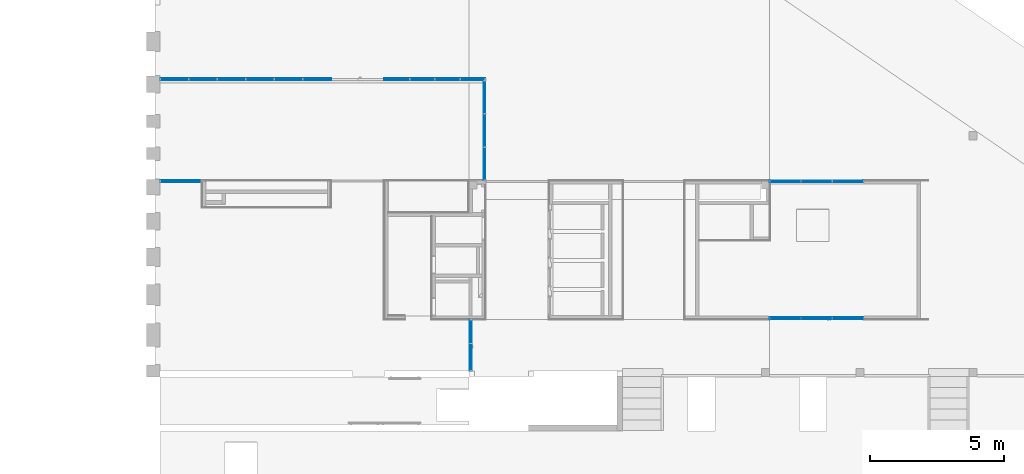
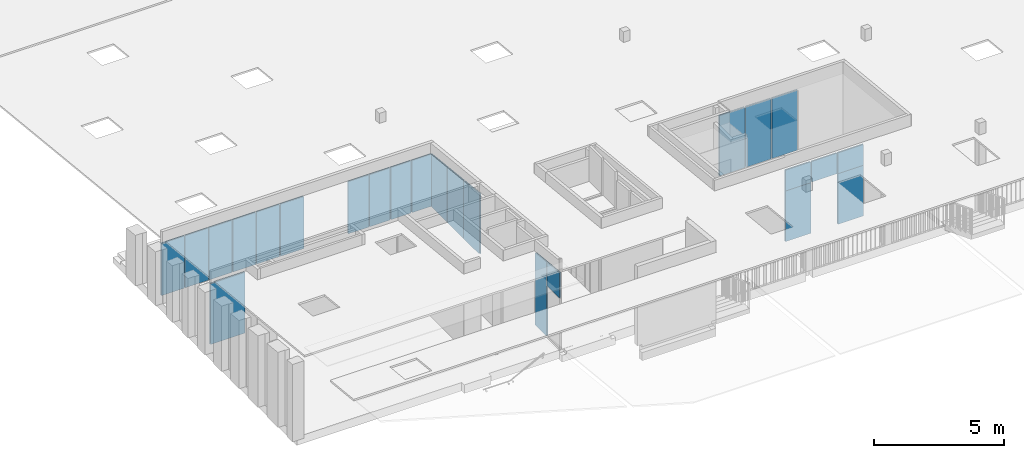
# One storey, part 9 of 43: 24 plates, 6 elements without a shape of their own.
"""IFC2X3 building model written with IfcOpenShell, lengths in millimetres."""

import ifcopenshell
import ifcopenshell.guid

model = None  # the IFC model being written
_history = None  # IfcOwnerHistory: only IFC2X3 demands one
_inside = {}  # id of a spatial element -> (the spatial element, [elements in it])
_under = {}  # id of a project, library or spatial element -> (it, [spatial elements below it])
_declared = {}  # id of a project -> (the project, [libraries it declares])
_typed = {}  # id of a type object -> (the type object, [elements of that type])
_made_of = {}  # id of a material, layer set ... -> (it, [elements and type objects made of it])


def new_model(schema):
    """Start an empty IFC model of exactly this schema.

    Asked for "IFC4X3", IfcOpenShell would pick the latest addendum, in which some entities
    have other attributes; the version numbers below select the first issue.
    IFC2X3 requires an IfcOwnerHistory on every rooted entity: one is made here for all.
    """
    global model, _history
    if schema == "IFC4X3":
        model = ifcopenshell.file(schema_version=(4, 3, 0, 0))
    else:
        model = ifcopenshell.file(schema=schema)
    _inside.clear()
    _under.clear()
    _declared.clear()
    _typed.clear()
    _made_of.clear()
    _history = None
    if model.schema == "IFC2X3":
        org = make("IfcOrganization", Name="unknown")
        user = make(
            "IfcPersonAndOrganization",
            ThePerson=make("IfcPerson", FamilyName="unknown"),
            TheOrganization=org,
        )
        app = make(
            "IfcApplication",
            ApplicationDeveloper=org,
            Version="unknown",
            ApplicationFullName="unknown",
            ApplicationIdentifier="unknown",
        )
        _history = make(
            "IfcOwnerHistory",
            OwningUser=user,
            OwningApplication=app,
            ChangeAction="ADDED",
            CreationDate=0,
        )
    return model


def make(cls, **values):
    """One entity of the class cls with the attributes given. An attribute that is None is left unset."""
    return model.create_entity(
        cls, **{name: value for name, value in values.items() if value is not None}
    )


def entity(cls, *values):
    """Any entity or typed value of the class cls, its attributes in the order of the schema. None: left unset."""
    e = model.create_entity(cls)
    for i, value in enumerate(values):
        if value is not None:
            e[i] = value
    return e


def rooted(cls, **values):
    """An entity with a GlobalId (a new one), such as an element, a storey or a relation."""
    return make(cls, GlobalId=ifcopenshell.guid.new(), OwnerHistory=_history, **values)


def si_unit(unit_type, name, prefix=None):
    """IfcSIUnit, for example si_unit("LENGTHUNIT", "METRE", prefix="MILLI")."""
    return make("IfcSIUnit", UnitType=unit_type, Prefix=prefix, Name=name)


def converted_unit(unit_type, name, factor, base, dimensions=None, offset=None):
    """IfcConversionBasedUnit, such as the inch: factor (a typed value) times the base unit."""
    return make(
        "IfcConversionBasedUnit"
        if offset is None
        else "IfcConversionBasedUnitWithOffset",
        ConversionOffset=offset,
        Dimensions=None
        if dimensions is None
        else entity("IfcDimensionalExponents", *dimensions),
        UnitType=unit_type,
        Name=name,
        ConversionFactor=make(
            "IfcMeasureWithUnit", ValueComponent=factor, UnitComponent=base
        ),
    )


def derived_unit(unit_type, elements):
    """IfcDerivedUnit: a product of units, each with its exponent."""
    return make(
        "IfcDerivedUnit",
        Elements=[
            make("IfcDerivedUnitElement", Unit=unit, Exponent=power)
            for unit, power in elements
        ],
        UnitType=unit_type,
    )


def money_unit(currency):
    """IfcMonetaryUnit."""
    return make("IfcMonetaryUnit", Currency=currency)


def assignment(units):
    """IfcUnitAssignment: the units of a project."""
    return None if units is None else make("IfcUnitAssignment", Units=units)


def point(xyz):
    """IfcCartesianPoint."""
    return None if xyz is None else make("IfcCartesianPoint", Coordinates=xyz)


def direction(xyz):
    """IfcDirection."""
    return None if xyz is None else make("IfcDirection", DirectionRatios=xyz)


def frame(location, z_axis=None, x_axis=None):
    """IfcAxis2Placement3D, a coordinate frame: its origin and axes. An axis left out is left unset."""
    return make(
        "IfcAxis2Placement3D",
        Location=point(location),
        Axis=direction(z_axis),
        RefDirection=direction(x_axis),
    )


def origin_with_axes():
    """The frame at (0, 0, 0) with the z axis (0, 0, 1) and the x axis (1, 0, 0) written out."""
    return frame((0.0, 0.0, 0.0), z_axis=(0.0, 0.0, 1.0), x_axis=(1.0, 0.0, 0.0))


def place(relative_to, where):
    """IfcLocalPlacement: puts the frame where relative to a parent placement (None: the world)."""
    return make(
        "IfcLocalPlacement", PlacementRelTo=relative_to, RelativePlacement=where
    )


def context(
    kind, dimensions, precision=None, world=None, true_north=None, identifier=None
):
    """IfcGeometricRepresentationContext, for example the 3D "Model" context."""
    return make(
        "IfcGeometricRepresentationContext",
        ContextIdentifier=identifier,
        ContextType=kind,
        CoordinateSpaceDimension=dimensions,
        Precision=precision,
        WorldCoordinateSystem=world,
        TrueNorth=true_north,
    )


def subcontext(parent, identifier, kind, view, scale=None):
    """IfcGeometricRepresentationSubContext, for example "Body" below "Model"."""
    return make(
        "IfcGeometricRepresentationSubContext",
        ContextIdentifier=identifier,
        ContextType=kind,
        ParentContext=parent,
        TargetScale=scale,
        TargetView=view,
    )


def project(units=None, contexts=None):
    """IfcProject with its units and contexts."""
    return rooted(
        "IfcProject",
        Name="project",
        RepresentationContexts=contexts,
        UnitsInContext=assignment(units),
    )


def spatial(cls, under=None, at=None, **own):
    """A site, building, storey or space (cls), placed at a placement, below another one or the project."""
    s = rooted(cls, ObjectPlacement=at, **own)
    if under is not None:
        _under.setdefault(under.id(), (under, []))[1].append(s)
    return s


def faces_of(points, faces, orient=None, outer=None):
    """IfcFace entities. A face is a list of loops; a loop is a list of indices into points, from 0.

    orient and outer hold one flag for each loop. By default every Orientation is true, the
    first loop of a face is its IfcFaceOuterBound and the others are IfcFaceBound.
    """
    made = []
    for i, loops in enumerate(faces):
        bounds = []
        for j, loop in enumerate(loops):
            is_outer = j == 0 if outer is None else outer[i][j]
            bounds.append(
                make(
                    "IfcFaceOuterBound" if is_outer else "IfcFaceBound",
                    Bound=make("IfcPolyLoop", Polygon=[points[k] for k in loop]),
                    Orientation=True if orient is None else orient[i][j],
                )
            )
        made.append(make("IfcFace", Bounds=bounds))
    return made


def faceted_brep(points, faces, orient=None, outer=None, voids=None):
    """IfcFacetedBrep: a solid bounded by flat faces; with voids (closed shells), ...WithVoids."""
    shared = [point(p) for p in points]
    hull = make("IfcClosedShell", CfsFaces=faces_of(shared, faces, orient, outer))
    if voids is None:
        return make("IfcFacetedBrep", Outer=hull)
    return make(
        "IfcFacetedBrepWithVoids",
        Outer=hull,
        Voids=[
            make(cls, CfsFaces=faces_of(shared, fs, o, b)) for cls, fs, o, b in voids
        ],
    )


def shape(context_of_items, identifier, shape_type, items):
    """IfcShapeRepresentation: the items that make up one representation, for example the "Body"."""
    return make(
        "IfcShapeRepresentation",
        ContextOfItems=context_of_items,
        RepresentationIdentifier=identifier,
        RepresentationType=shape_type,
        Items=items,
    )


def source(mapping_origin, context_of_items, identifier, shape_type, items):
    """IfcRepresentationMap: a shape defined once, which mapped items show again and again."""
    return make(
        "IfcRepresentationMap",
        MappingOrigin=mapping_origin,
        MappedRepresentation=shape(context_of_items, identifier, shape_type, items),
    )


def transform(
    local_origin,
    x_axis=None,
    y_axis=None,
    z_axis=None,
    scale=None,
    scale2=None,
    scale3=None,
    uniform=True,
):
    """IfcCartesianTransformationOperator3D, or its non-uniform kind. x_axis, y_axis, z_axis: its Axis1, 2, 3."""
    if uniform:
        return make(
            "IfcCartesianTransformationOperator3D",
            Axis1=direction(x_axis),
            Axis2=direction(y_axis),
            LocalOrigin=point(local_origin),
            Scale=scale,
            Axis3=direction(z_axis),
        )
    return make(
        "IfcCartesianTransformationOperator3DnonUniform",
        Axis1=direction(x_axis),
        Axis2=direction(y_axis),
        LocalOrigin=point(local_origin),
        Scale=scale,
        Axis3=direction(z_axis),
        Scale2=scale2,
        Scale3=scale3,
    )


def mapped(mapping_source, mapping_target):
    """IfcMappedItem: shows the shape of a source again, moved by a transform."""
    return make(
        "IfcMappedItem", MappingSource=mapping_source, MappingTarget=mapping_target
    )


def material(Name=None, Category=None):
    """IfcMaterial."""
    return make("IfcMaterial", Name=Name, Category=Category)


def made_of(thing, what):
    """Note that an element or type object is made of a material, layer set ...; save() writes the relation."""
    if what is not None:
        _made_of.setdefault(what.id(), (what, []))[1].append(thing)
    return thing


def type_object(cls, material=None, **own):
    """A type object (cls), such as IfcWallType, which elements share."""
    return made_of(rooted(cls, **own), material)


def element(
    cls,
    number,
    at=None,
    inside=None,
    cuts=None,
    type_object=None,
    material=None,
    context=None,
    identifier="Body",
    shape_type=None,
    held_by="IfcProductDefinitionShape",
    body=None,
    shapes=None,
    **own,
):
    """One element of the class cls, such as IfcWall. Its Tag is "e" and its number.

    at: its placement. inside: the storey or other place that contains it. cuts: it is an
    opening in that element (IfcRelVoidsElement). A single representation is given by context,
    identifier, shape_type and body (its items); several are given by shapes. held_by: the class
    of the entity that holds the representations. save() writes the other relations.
    """
    e = rooted(cls, Tag="e%d" % number, ObjectPlacement=at, **own)
    if body is not None:
        shapes = [shape(context, identifier, shape_type, body)]
    if shapes is not None:
        e.Representation = make(held_by, Representations=shapes)
    if inside is not None:
        _inside.setdefault(inside.id(), (inside, []))[1].append(e)
    if cuts is not None:
        rooted(
            "IfcRelVoidsElement", RelatingBuildingElement=cuts, RelatedOpeningElement=e
        )
    if type_object is not None:
        _typed.setdefault(type_object.id(), (type_object, []))[1].append(e)
    return made_of(e, material)


def aggregate(whole, parts):
    """IfcRelAggregates: a whole, such as a stair, and the parts it consists of."""
    return rooted("IfcRelAggregates", RelatingObject=whole, RelatedObjects=parts)


def save(model, path):
    """Write the relations noted so far, then the file.

    IfcRelAggregates (storeys below a building ...), IfcRelContainedInSpatialStructure (elements
    in a storey), IfcRelDefinesByType, IfcRelAssociatesMaterial and IfcRelDeclares: one each for
    every whole, place, type object, material and project.
    """
    for whole, parts in _under.values():
        aggregate(whole, parts)
    for where, things in _inside.values():
        rooted(
            "IfcRelContainedInSpatialStructure",
            RelatedElements=things,
            RelatingStructure=where,
        )
    for kind, things in _typed.values():
        rooted("IfcRelDefinesByType", RelatedObjects=things, RelatingType=kind)
    for what, things in _made_of.values():
        rooted("IfcRelAssociatesMaterial", RelatedObjects=things, RelatingMaterial=what)
    for by, libraries in _declared.values():
        rooted("IfcRelDeclares", RelatingContext=by, RelatedDefinitions=libraries)
    model.write(path)


model = new_model("IFC2X3")

# Units and contexts
model_context = context("Model", 3, precision=0.01, world=origin_with_axes(), true_north=direction((0.0, 1.0)))
body_context = subcontext(model_context, "Body", "Model", "MODEL_VIEW")
ifc_project = project(units=[si_unit("LENGTHUNIT", "METRE", prefix="MILLI"), si_unit("AREAUNIT", "SQUARE_METRE"), si_unit("VOLUMEUNIT", "CUBIC_METRE"), converted_unit("PLANEANGLEUNIT", "DEGREE", entity("IfcPlaneAngleMeasure", 0.0174532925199), si_unit("PLANEANGLEUNIT", "RADIAN"), dimensions=[0, 0, 0, 0, 0, 0, 0]), si_unit("SOLIDANGLEUNIT", "STERADIAN"), money_unit("EUR"), converted_unit("TIMEUNIT", "Year", entity("IfcTimeMeasure", 31556926.0), si_unit("TIMEUNIT", "SECOND"), dimensions=[0, 0, 1, 0, 0, 0, 0]), si_unit("MASSUNIT", "GRAM", prefix="KILO"), si_unit("THERMODYNAMICTEMPERATUREUNIT", "DEGREE_CELSIUS"), si_unit("LUMINOUSINTENSITYUNIT", "LUMEN"), si_unit("ENERGYUNIT", "JOULE", prefix="MEGA"), derived_unit("THERMALCONDUCTANCEUNIT", [(si_unit("POWERUNIT", "WATT"), 1), (si_unit("LENGTHUNIT", "METRE"), -1), (si_unit("THERMODYNAMICTEMPERATUREUNIT", "KELVIN"), -1)]), derived_unit("SPECIFICHEATCAPACITYUNIT", [(si_unit("ENERGYUNIT", "JOULE"), 1), (si_unit("MASSUNIT", "GRAM", prefix="KILO"), -1), (si_unit("THERMODYNAMICTEMPERATUREUNIT", "KELVIN"), -1)]), derived_unit("MASSDENSITYUNIT", [(si_unit("MASSUNIT", "GRAM", prefix="KILO"), 1), (si_unit("VOLUMEUNIT", "CUBIC_METRE"), -1)])], contexts=[model_context])

# Site, building, storey
site_placement = place(None, origin_with_axes())
site = spatial("IfcSite", under=ifc_project, at=site_placement, Name="L.Koidula tn 11b", CompositionType="ELEMENT")
building_placement = place(site_placement, origin_with_axes())
building = spatial("IfcBuilding", under=site, at=building_placement, Name="Rakvere Riigigümnaasium", CompositionType="ELEMENT")
storey_placement = place(building_placement, frame((0.0, 0.0, 6665.0), z_axis=(0.0, 0.0, 1.0), x_axis=(1.0, 0.0, 0.0)))
storey = spatial("IfcBuildingStorey", under=building, at=storey_placement, Name="3.korrus +6,66", CompositionType="ELEMENT", Elevation=6665.0)

# Curtain wall, plates
curtain_wall_type = type_object("IfcCurtainWallType", Name="Curtain Wall Type", PredefinedType="NOTDEFINED")
curtain_wall_1_placement = place(storey_placement, frame((45254.9999955, 28178.4554945, 0.0), z_axis=(0.0, 0.0, 1.0), x_axis=(1.0, 0.0, 0.0)))
curtain_wall_1 = element("IfcCurtainWall", 1, at=curtain_wall_1_placement, inside=storey, type_object=curtain_wall_type, Name="SKLF-26")
ifc_material = material(Name="VKR-05_Klaas")
plate_type_1 = type_object("IfcPlateType", Name="Siseklaasfassaad - Klaas-Doubleline30 1027 x 2460 x 17", PredefinedType="CURTAIN_PANEL")
shared_shape_1 = source(origin_with_axes(), body_context, "Body", "Brep", [
    faceted_brep([(1043.99998523, 2474.99983865, -37.0), (17.0000163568, 2474.99983865, -37.0), (17.0000163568, 2474.99983865, -25.0), (1043.99998523, 2474.99983865, -25.0), (1043.99998523, 15.0000035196, -37.0), (17.0000163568, 15.0000035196, -37.0), (17.0000163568, 15.0000035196, -25.0), (1043.99998523, 15.0000035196, -25.0)], [[[0, 1, 2, 3]], [[0, 4, 5, 1]], [[1, 5, 6, 2]], [[3, 2, 6, 7]], [[4, 0, 3, 7]], [[5, 4, 7, 6]]]),
    faceted_brep([(1043.99998523, 2474.99983865, 15.0), (17.0000163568, 2474.99983865, 15.0), (17.0000163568, 2474.99983865, 27.0), (1043.99998523, 2474.99983865, 27.0), (1043.99998523, 15.0000035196, 15.0), (17.0000163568, 15.0000035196, 15.0), (17.0000163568, 15.0000035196, 27.0), (1043.99998523, 15.0000035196, 27.0)], [[[0, 1, 2, 3]], [[0, 4, 5, 1]], [[1, 5, 6, 2]], [[3, 2, 6, 7]], [[4, 0, 3, 7]], [[5, 4, 7, 6]]]),
])
plate_1_placement = place(curtain_wall_1_placement, frame((-4980.5, 0.0, 1244.99992109), z_axis=(0.0, 0.0, 1.0), x_axis=(1.0, 0.0, 0.0)))
plate_1 = element("IfcPlate", 2, at=plate_1_placement, type_object=plate_type_1, material=ifc_material, Name="Panel-Siseklaasf-022", ObjectType="CURTAIN_PANEL", context=body_context, shape_type="MappedRepresentation", body=[
    mapped(shared_shape_1, transform((530.5, 0.0, -1244.99992109), x_axis=(-1.0, 0.0, 0.0), y_axis=(0.0, 0.0, 1.0), z_axis=(0.0, 1.0, 0.0))),
])
plate_2_placement = place(curtain_wall_1_placement, frame((-8163.5, 0.0, 1244.99992109), z_axis=(0.0, 0.0, 1.0), x_axis=(1.0, 0.0, 0.0)))
plate_2 = element("IfcPlate", 3, at=plate_2_placement, type_object=plate_type_1, material=ifc_material, Name="Panel-Siseklaasf-023", ObjectType="CURTAIN_PANEL", context=body_context, shape_type="MappedRepresentation", body=[
    mapped(shared_shape_1, transform((530.5, 0.0, -1244.99992109), x_axis=(-1.0, 0.0, 0.0), y_axis=(0.0, 0.0, 1.0), z_axis=(0.0, 1.0, 0.0))),
])
plate_3_placement = place(curtain_wall_1_placement, frame((-6041.5, 0.0, 1244.99992109), z_axis=(0.0, 0.0, 1.0), x_axis=(1.0, 0.0, 0.0)))
plate_3 = element("IfcPlate", 4, at=plate_3_placement, type_object=plate_type_1, material=ifc_material, Name="Panel-Siseklaasf-040", ObjectType="CURTAIN_PANEL", context=body_context, shape_type="MappedRepresentation", body=[
    mapped(shared_shape_1, transform((530.5, 0.0, -1244.99992109), x_axis=(-1.0, 0.0, 0.0), y_axis=(0.0, 0.0, 1.0), z_axis=(0.0, 1.0, 0.0))),
])
plate_4_placement = place(curtain_wall_1_placement, frame((-7102.5, 0.0, 1244.99992109), z_axis=(0.0, 0.0, 1.0), x_axis=(1.0, 0.0, 0.0)))
plate_4 = element("IfcPlate", 5, at=plate_4_placement, type_object=plate_type_1, material=ifc_material, Name="Panel-Siseklaasf-038", ObjectType="CURTAIN_PANEL", context=body_context, shape_type="MappedRepresentation", body=[
    mapped(shared_shape_1, transform((530.5, 0.0, -1244.99992109), x_axis=(-1.0, 0.0, 0.0), y_axis=(0.0, 0.0, 1.0), z_axis=(0.0, 1.0, 0.0))),
])
plate_type_2 = type_object("IfcPlateType", Name="Siseklaasfassaad - Klaas-Doubleline30 908 x 2460 x 17", PredefinedType="CURTAIN_PANEL")
shared_shape_2 = source(origin_with_axes(), body_context, "Body", "Brep", [
    faceted_brep([(924.999982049, 2474.99983865, -37.0), (17.0000163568, 2474.99983865, -37.0), (17.0000163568, 2474.99983865, -25.0), (924.999982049, 2474.99983865, -25.0), (924.999982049, 15.0000035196, -37.0), (17.0000163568, 15.0000035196, -37.0), (17.0000163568, 15.0000035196, -25.0), (924.999982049, 15.0000035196, -25.0)], [[[0, 1, 2, 3]], [[0, 4, 5, 1]], [[1, 5, 6, 2]], [[3, 2, 6, 7]], [[4, 0, 3, 7]], [[5, 4, 7, 6]]]),
    faceted_brep([(924.999982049, 2474.99983865, 15.0), (17.0000163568, 2474.99983865, 15.0), (17.0000163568, 2474.99983865, 27.0), (924.999982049, 2474.99983865, 27.0), (924.999982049, 15.0000035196, 15.0), (17.0000163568, 15.0000035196, 15.0), (17.0000163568, 15.0000035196, 27.0), (924.999982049, 15.0000035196, 27.0)], [[[0, 1, 2, 3]], [[0, 4, 5, 1]], [[1, 5, 6, 2]], [[3, 2, 6, 7]], [[4, 0, 3, 7]], [[5, 4, 7, 6]]]),
])
plate_5_placement = place(curtain_wall_1_placement, frame((0.0, 0.0, 1244.99992109), z_axis=(0.0, 0.0, 1.0), x_axis=(1.0, 0.0, 0.0)))
plate_5 = element("IfcPlate", 6, at=plate_5_placement, type_object=plate_type_2, material=ifc_material, Name="Panel-Siseklaasf-019", ObjectType="CURTAIN_PANEL", context=body_context, shape_type="MappedRepresentation", body=[
    mapped(shared_shape_2, transform((471.0, 0.0, -1244.99992109), x_axis=(-1.0, 0.0, 0.0), y_axis=(0.0, 0.0, 1.0), z_axis=(0.0, 1.0, 0.0))),
])
plate_6_placement = place(curtain_wall_1_placement, frame((942.0, 0.0, 1244.99992109), z_axis=(0.0, 0.0, 1.0), x_axis=(1.0, 0.0, 0.0)))
plate_6 = element("IfcPlate", 7, at=plate_6_placement, type_object=plate_type_2, material=ifc_material, Name="Panel-Siseklaasf-042", ObjectType="CURTAIN_PANEL", context=body_context, shape_type="MappedRepresentation", body=[
    mapped(shared_shape_2, transform((471.0, 0.0, -1244.99992109), x_axis=(-1.0, 0.0, 0.0), y_axis=(0.0, 0.0, 1.0), z_axis=(0.0, 1.0, 0.0))),
])
plate_type_3 = type_object("IfcPlateType", Name="Siseklaasfassaad - Klaas-Doubleline30 925 x 2460 x 17", PredefinedType="CURTAIN_PANEL")
plate_7_placement = place(curtain_wall_1_placement, frame((-942.0, 0.0, 1244.99992109), z_axis=(0.0, 0.0, 1.0), x_axis=(1.0, 0.0, 0.0)))
plate_7 = element("IfcPlate", 8, at=plate_7_placement, type_object=plate_type_3, material=ifc_material, Name="Panel-Siseklaasf-020", ObjectType="CURTAIN_PANEL", context=body_context, shape_type="Brep", body=[
    faceted_brep([(-470.999998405, -37.0, 1229.99991757), (453.999983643, -37.0, 1229.99991757), (453.999983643, -25.0, 1229.99991757), (-470.999998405, -25.0, 1229.99991757), (-470.999998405, -37.0, -1229.99991757), (453.999983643, -37.0, -1229.99991757), (453.999983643, -25.0, -1229.99991757), (-470.999998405, -25.0, -1229.99991757)], [[[0, 1, 2, 3]], [[0, 4, 5, 1]], [[1, 5, 6, 2]], [[3, 2, 6, 7]], [[4, 0, 3, 7]], [[5, 4, 7, 6]]]),
    faceted_brep([(-470.999998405, 15.0, 1229.99991757), (453.999983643, 15.0, 1229.99991757), (453.999983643, 27.0, 1229.99991757), (-470.999998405, 27.0, 1229.99991757), (-470.999998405, 15.0, -1229.99991757), (453.999983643, 15.0, -1229.99991757), (453.999983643, 27.0, -1229.99991757), (-470.999998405, 27.0, -1229.99991757)], [[[0, 1, 2, 3]], [[0, 4, 5, 1]], [[1, 5, 6, 2]], [[3, 2, 6, 7]], [[4, 0, 3, 7]], [[5, 4, 7, 6]]]),
])
plate_type_4 = type_object("IfcPlateType", Name="Siseklaasfassaad - Klaas-Doubleline30 1044 x 2460 x 17", PredefinedType="CURTAIN_PANEL")
plate_8_placement = place(curtain_wall_1_placement, frame((-3919.5, 0.0, 1244.99992109), z_axis=(0.0, 0.0, 1.0), x_axis=(1.0, 0.0, 0.0)))
plate_8 = element("IfcPlate", 9, at=plate_8_placement, type_object=plate_type_4, material=ifc_material, Name="Panel-Siseklaasf-021", ObjectType="CURTAIN_PANEL", context=body_context, shape_type="Brep", body=[
    faceted_brep([(-513.499985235, -37.0, 1229.99991757), (530.5, -37.0, 1229.99991757), (530.5, -25.0, 1229.99991757), (-513.499985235, -25.0, 1229.99991757), (-513.499985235, -37.0, -1229.99991757), (530.5, -37.0, -1229.99991757), (530.5, -25.0, -1229.99991757), (-513.499985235, -25.0, -1229.99991757)], [[[0, 1, 2, 3]], [[0, 4, 5, 1]], [[1, 5, 6, 2]], [[3, 2, 6, 7]], [[4, 0, 3, 7]], [[5, 4, 7, 6]]]),
    faceted_brep([(-513.499985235, 15.0, 1229.99991757), (530.5, 15.0, 1229.99991757), (530.5, 27.0, 1229.99991757), (-513.499985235, 27.0, 1229.99991757), (-513.499985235, 15.0, -1229.99991757), (530.5, 15.0, -1229.99991757), (530.5, 27.0, -1229.99991757), (-513.499985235, 27.0, -1229.99991757)], [[[0, 1, 2, 3]], [[0, 4, 5, 1]], [[1, 5, 6, 2]], [[3, 2, 6, 7]], [[4, 0, 3, 7]], [[5, 4, 7, 6]]]),
])
plate_type_5 = type_object("IfcPlateType", Name="Siseklaasfassaad - Klaas-Doubleline30 1029 x 2460 x 17", PredefinedType="CURTAIN_PANEL")
plate_9_placement = place(curtain_wall_1_placement, frame((-9224.50011881, 0.0, 1244.99992109), z_axis=(0.0, 0.0, 1.0), x_axis=(1.0, 0.0, 0.0)))
plate_9 = element("IfcPlate", 10, at=plate_9_placement, type_object=plate_type_5, material=ifc_material, Name="Panel-Siseklaasf-024", ObjectType="CURTAIN_PANEL", context=body_context, shape_type="Brep", body=[
    faceted_brep([(-515.499879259, -37.0, 1229.99991757), (513.500102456, -37.0, 1229.99991757), (513.500102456, -25.0, 1229.99991757), (-515.499879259, -25.0, 1229.99991757), (-515.499879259, -37.0, -1229.99991757), (513.500102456, -37.0, -1229.99991757), (513.500102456, -25.0, -1229.99991757), (-515.499879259, -25.0, -1229.99991757)], [[[0, 1, 2, 3]], [[0, 4, 5, 1]], [[1, 5, 6, 2]], [[3, 2, 6, 7]], [[4, 0, 3, 7]], [[5, 4, 7, 6]]]),
    faceted_brep([(-515.499879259, 15.0, 1229.99991757), (513.500102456, 15.0, 1229.99991757), (513.500102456, 27.0, 1229.99991757), (-515.499879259, 27.0, 1229.99991757), (-515.499879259, 15.0, -1229.99991757), (513.500102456, 15.0, -1229.99991757), (513.500102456, 27.0, -1229.99991757), (-515.499879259, 27.0, -1229.99991757)], [[[0, 1, 2, 3]], [[0, 4, 5, 1]], [[1, 5, 6, 2]], [[3, 2, 6, 7]], [[4, 0, 3, 7]], [[5, 4, 7, 6]]]),
])
plate_type_6 = type_object("IfcPlateType", Name="Siseklaasfassaad - Klaas-Doubleline30 910 x 2460 x 17", PredefinedType="CURTAIN_PANEL")
plate_10_placement = place(curtain_wall_1_placement, frame((1884.0, 0.0, 1244.99992109), z_axis=(0.0, 0.0, 1.0), x_axis=(1.0, 0.0, 0.0)))
plate_10 = element("IfcPlate", 11, at=plate_10_placement, type_object=plate_type_6, material=ifc_material, Name="Panel-Siseklaasf-041", ObjectType="CURTAIN_PANEL", context=body_context, shape_type="Brep", body=[
    faceted_brep([(-453.999982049, -37.0, 1229.99991757), (455.99999648, -37.0, 1229.99991757), (455.99999648, -25.0, 1229.99991757), (-453.999982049, -25.0, 1229.99991757), (-453.999982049, -37.0, -1229.99991757), (455.99999648, -37.0, -1229.99991757), (455.99999648, -25.0, -1229.99991757), (-453.999982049, -25.0, -1229.99991757)], [[[0, 1, 2, 3]], [[0, 4, 5, 1]], [[1, 5, 6, 2]], [[3, 2, 6, 7]], [[4, 0, 3, 7]], [[5, 4, 7, 6]]]),
    faceted_brep([(-453.999982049, 15.0, 1229.99991757), (455.99999648, 15.0, 1229.99991757), (455.99999648, 27.0, 1229.99991757), (-453.999982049, 27.0, 1229.99991757), (-453.999982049, 15.0, -1229.99991757), (455.99999648, 15.0, -1229.99991757), (455.99999648, 27.0, -1229.99991757), (-453.999982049, 27.0, -1229.99991757)], [[[0, 1, 2, 3]], [[0, 4, 5, 1]], [[1, 5, 6, 2]], [[3, 2, 6, 7]], [[4, 0, 3, 7]], [[5, 4, 7, 6]]]),
])
aggregate(curtain_wall_1, [plate_5, plate_7, plate_8, plate_1, plate_2, plate_9, plate_10, plate_3, plate_6, plate_4])

curtain_wall_2_placement = place(storey_placement, frame((47567.9999955, 27513.9554945, 0.0), z_axis=(0.0, 0.0, 1.0), x_axis=(1.0, 0.0, 0.0)))
curtain_wall_2 = element("IfcCurtainWall", 12, at=curtain_wall_2_placement, inside=storey, type_object=curtain_wall_type, Name="SKLF-27")
plate_type_7 = type_object("IfcPlateType", Name="Siseklaasfassaad - Klaas-Doubleline30 1213 x 2460 x 17", PredefinedType="CURTAIN_PANEL")
plate_11_placement = place(curtain_wall_2_placement, frame((0.0, 0.0, 1278.15751386), z_axis=(0.0, 0.0, 1.0), x_axis=(0.0, 1.0, 0.0)))
plate_11 = element("IfcPlate", 13, at=plate_11_placement, type_object=plate_type_7, material=ifc_material, Name="Panel-Siseklaasf-045", ObjectType="CURTAIN_PANEL", context=body_context, shape_type="Brep", body=[
    faceted_brep([(-605.499977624, -37.0, 1329.51681949), (607.499996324, -37.0, 1196.39852846), (607.499996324, -25.0, 1196.39852846), (-605.499977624, -25.0, 1329.51681949), (-605.499977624, -37.0, -1263.15751018), (607.499996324, -37.0, -1263.15751018), (607.499996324, -25.0, -1263.15751018), (-605.499977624, -25.0, -1263.15751018)], [[[0, 1, 2, 3]], [[0, 4, 5, 1]], [[1, 5, 6, 2]], [[3, 2, 6, 7]], [[4, 0, 3, 7]], [[5, 4, 7, 6]]]),
    faceted_brep([(-605.499977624, 15.0, 1329.51681949), (607.499996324, 15.0, 1196.39852846), (607.499996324, 27.0, 1196.39852846), (-605.499977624, 27.0, 1329.51681949), (-605.499977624, 15.0, -1263.15751018), (607.499996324, 15.0, -1263.15751018), (607.499996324, 27.0, -1263.15751018), (-605.499977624, 27.0, -1263.15751018)], [[[0, 1, 2, 3]], [[0, 4, 5, 1]], [[1, 5, 6, 2]], [[3, 2, 6, 7]], [[4, 0, 3, 7]], [[5, 4, 7, 6]]]),
])
plate_type_8 = type_object("IfcPlateType", Name="Siseklaasfassaad - Klaas-Doubleline30 1212 x 2596 x 17", PredefinedType="CURTAIN_PANEL")
plate_12_placement = place(curtain_wall_2_placement, frame((0.0, -1245.5, 1346.49999326), z_axis=(0.0, 0.0, 1.0), x_axis=(0.0, 1.0, 0.0)))
plate_12 = element("IfcPlate", 14, at=plate_12_placement, type_object=plate_type_8, material=ifc_material, Name="Panel-Siseklaasf-046", ObjectType="CURTAIN_PANEL", context=body_context, shape_type="Brep", body=[
    faceted_brep([(-605.999991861, -37.0, 1397.91418677), (605.999981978, -37.0, 1264.90567668), (605.999981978, -25.0, 1264.90567668), (-605.999991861, -25.0, 1397.91418677), (-605.999991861, -37.0, -1331.50000397), (605.999981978, -37.0, -1331.50000397), (605.999981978, -25.0, -1331.50000397), (-605.999991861, -25.0, -1331.50000397)], [[[0, 1, 2, 3]], [[0, 4, 5, 1]], [[1, 5, 6, 2]], [[3, 2, 6, 7]], [[4, 0, 3, 7]], [[5, 4, 7, 6]]]),
    faceted_brep([(-605.999991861, 15.0, 1397.91418677), (605.999981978, 15.0, 1264.90567668), (605.999981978, 27.0, 1264.90567668), (-605.999991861, 27.0, 1397.91418677), (-605.999991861, 15.0, -1331.50000397), (605.999981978, 15.0, -1331.50000397), (605.999981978, 27.0, -1331.50000397), (-605.999991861, 27.0, -1331.50000397)], [[[0, 1, 2, 3]], [[0, 4, 5, 1]], [[1, 5, 6, 2]], [[3, 2, 6, 7]], [[4, 0, 3, 7]], [[5, 4, 7, 6]]]),
])
plate_type_9 = type_object("IfcPlateType", Name="Siseklaasfassaad - Klaas-Doubleline30 1213 x 2733 x 17", PredefinedType="CURTAIN_PANEL")
plate_13_placement = place(curtain_wall_2_placement, frame((0.0, -2491.0, 1414.84247267), z_axis=(0.0, 0.0, 1.0), x_axis=(0.0, 1.0, 0.0)))
plate_13 = element("IfcPlate", 15, at=plate_13_placement, type_object=plate_type_9, material=ifc_material, Name="Panel-Siseklaasf-044", ObjectType="CURTAIN_PANEL", context=body_context, shape_type="Brep", body=[
    faceted_brep([(-607.499994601, -37.0, 1466.42132505), (605.499996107, -37.0, 1333.30297914), (605.499996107, -25.0, 1333.30297914), (-607.499994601, -25.0, 1466.42132505), (-607.499994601, -37.0, -1399.84247432), (605.499996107, -37.0, -1399.84247432), (605.499996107, -25.0, -1399.84247432), (-607.499994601, -25.0, -1399.84247432)], [[[0, 1, 2, 3]], [[0, 4, 5, 1]], [[1, 5, 6, 2]], [[3, 2, 6, 7]], [[4, 0, 3, 7]], [[5, 4, 7, 6]]]),
    faceted_brep([(-607.499994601, 15.0, 1466.42132505), (605.499996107, 15.0, 1333.30297914), (605.499996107, 27.0, 1333.30297914), (-607.499994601, 27.0, 1466.42132505), (-607.499994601, 15.0, -1399.84247432), (605.499996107, 15.0, -1399.84247432), (605.499996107, 27.0, -1399.84247432), (-607.499994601, 27.0, -1399.84247432)], [[[0, 1, 2, 3]], [[0, 4, 5, 1]], [[1, 5, 6, 2]], [[3, 2, 6, 7]], [[4, 0, 3, 7]], [[5, 4, 7, 6]]]),
])
aggregate(curtain_wall_2, [plate_11, plate_12, plate_13])

# Curtain wall, plate
curtain_wall_3_placement = place(storey_placement, frame((36287.4860125, 24388.4555472, 0.0), z_axis=(0.0, 0.0, 1.0), x_axis=(1.0, 0.0, 0.0)))
curtain_wall_3 = element("IfcCurtainWall", 16, at=curtain_wall_3_placement, inside=storey, type_object=curtain_wall_type, Name="SKLF-25")
plate_type_10 = type_object("IfcPlateType", Name="Siseklaasfassaad - Klaas-Doubleline30 1545 x 2868 x 17", PredefinedType="CURTAIN_PANEL")
plate_14_placement = place(curtain_wall_3_placement, frame((0.0, 0.0, 1449.00000447), z_axis=(0.0, 0.0, 1.0), x_axis=(1.0, 0.0, 0.0)))
plate_14 = element("IfcPlate", 17, at=plate_14_placement, type_object=plate_type_10, material=ifc_material, Name="Panel-Siseklaasf-053", ObjectType="CURTAIN_PANEL", context=body_context, shape_type="Brep", body=[
    faceted_brep([(-772.500010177, -37.0, 1434.00000603), (772.500001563, -37.0, 1434.00000603), (772.500001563, -25.0, 1434.00000603), (-772.500010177, -25.0, 1434.00000603), (-772.500010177, -37.0, -1434.00000603), (772.500001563, -37.0, -1434.00000603), (772.500001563, -25.0, -1434.00000603), (-772.500010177, -25.0, -1434.00000603)], [[[0, 1, 2, 3]], [[0, 4, 5, 1]], [[1, 5, 6, 2]], [[3, 2, 6, 7]], [[4, 0, 3, 7]], [[5, 4, 7, 6]]]),
    faceted_brep([(-772.500010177, 15.0, 1434.00000603), (772.500001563, 15.0, 1434.00000603), (772.500001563, 27.0, 1434.00000603), (-772.500010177, 27.0, 1434.00000603), (-772.500010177, 15.0, -1434.00000603), (772.500001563, 15.0, -1434.00000603), (772.500001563, 27.0, -1434.00000603), (-772.500010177, 27.0, -1434.00000603)], [[[0, 1, 2, 3]], [[0, 4, 5, 1]], [[1, 5, 6, 2]], [[3, 2, 6, 7]], [[4, 0, 3, 7]], [[5, 4, 7, 6]]]),
])
aggregate(curtain_wall_3, [plate_14])

# Curtain wall, plates
curtain_wall_4_placement = place(storey_placement, frame((47063.0738161, 17825.4555095, 0.0), z_axis=(0.0, 0.0, 1.0), x_axis=(1.0, 0.0, 0.0)))
curtain_wall_4 = element("IfcCurtainWall", 18, at=curtain_wall_4_placement, inside=storey, type_object=curtain_wall_type, Name="SKLF-24")
plate_type_11 = type_object("IfcPlateType", Name="Siseklaasfassaad - Klaas-Doubleline30 998 x 1208 x 17", PredefinedType="CURTAIN_PANEL")
plate_15_placement = place(curtain_wall_4_placement, frame((0.0, 0.0, 2993.54992651), z_axis=(0.0, 0.0, 1.0), x_axis=(0.0, -1.0, 0.0)))
plate_15 = element("IfcPlate", 19, at=plate_15_placement, type_object=plate_type_11, material=ifc_material, Name="Panel-Siseklaasf-097", ObjectType="CURTAIN_PANEL", context=body_context, shape_type="Brep", body=[
    faceted_brep([(499.999998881, -37.0, 629.830388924), (499.999998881, -37.0, -578.549925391), (499.999998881, -25.0, -578.549925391), (499.999998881, -25.0, 629.830388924), (-497.999989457, -37.0, 527.317014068), (-497.999989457, -37.0, -578.549925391), (-497.999989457, -25.0, -578.549925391), (-497.999989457, -25.0, 527.317014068)], [[[0, 1, 2, 3]], [[0, 4, 5, 1]], [[1, 5, 6, 2]], [[3, 2, 6, 7]], [[4, 0, 3, 7]], [[5, 4, 7, 6]]]),
    faceted_brep([(499.999998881, 15.0, 629.830388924), (499.999998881, 15.0, -578.549925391), (499.999998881, 27.0, -578.549925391), (499.999998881, 27.0, 629.830388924), (-497.999989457, 15.0, 527.317014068), (-497.999989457, 15.0, -578.549925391), (-497.999989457, 27.0, -578.549925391), (-497.999989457, 27.0, 527.317014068)], [[[0, 1, 2, 3]], [[0, 4, 5, 1]], [[1, 5, 6, 2]], [[3, 2, 6, 7]], [[4, 0, 3, 7]], [[5, 4, 7, 6]]]),
])
plate_type_12 = type_object("IfcPlateType", Name="Siseklaasfassaad - Klaas-Doubleline30 868 x 2385 x 17", PredefinedType="CURTAIN_PANEL")
plate_16_placement = place(curtain_wall_4_placement, frame((0.0, 905.564663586, 2025.13628299), z_axis=(0.0, 0.0, 1.0), x_axis=(0.0, -1.0, 0.0)))
plate_16 = element("IfcPlate", 20, at=plate_16_placement, type_object=plate_type_12, material=ifc_material, Name="Panel-Siseklaasf-096", ObjectType="CURTAIN_PANEL", context=body_context, shape_type="Brep", body=[
    faceted_brep([(373.564631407, -37.0, 1492.23824068), (373.564631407, -37.0, -2010.13627317), (373.564631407, -25.0, -2010.13627317), (373.564631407, -25.0, 1492.23824068), (-494.419545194, -37.0, 1403.07991138), (-494.419492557, -37.0, -2010.13627317), (-494.419492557, -25.0, -2010.13627317), (-494.419545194, -25.0, 1403.07991138)], [[[0, 1, 2, 3]], [[0, 4, 5, 1]], [[1, 5, 6, 2]], [[3, 2, 6, 7]], [[4, 0, 3, 7]], [[5, 4, 7, 6]]]),
    faceted_brep([(373.564631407, 15.0, 1492.23824068), (373.564631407, 15.0, -2010.13627317), (373.564631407, 27.0, -2010.13627317), (373.564631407, 27.0, 1492.23824068), (-494.419545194, 15.0, 1403.07991138), (-494.419492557, 15.0, -2010.13627317), (-494.419492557, 27.0, -2010.13627317), (-494.419545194, 27.0, 1403.07991138)], [[[0, 1, 2, 3]], [[0, 4, 5, 1]], [[1, 5, 6, 2]], [[3, 2, 6, 7]], [[4, 0, 3, 7]], [[5, 4, 7, 6]]]),
])
aggregate(curtain_wall_4, [plate_15, plate_16])

curtain_wall_5_placement = place(storey_placement, frame((58878.6347232, 19272.4397072, 0.0), z_axis=(0.0, 0.0, 1.0), x_axis=(1.0, 0.0, 0.0)))
curtain_wall_5 = element("IfcCurtainWall", 21, at=curtain_wall_5_placement, inside=storey, type_object=curtain_wall_type, Name="SKLF-29")
plate_type_13 = type_object("IfcPlateType", Name="Siseklaasfassaad - Klaas-Doubleline30 1138 x 985 x 17", PredefinedType="CURTAIN_PANEL")
plate_17_placement = place(curtain_wall_5_placement, frame((0.0, 0.0, 2800.0), z_axis=(0.0, 0.0, 1.0), x_axis=(-1.0, 0.0, 0.0)))
plate_17 = element("IfcPlate", 22, at=plate_17_placement, type_object=plate_type_13, material=ifc_material, Name="Panel-Siseklaasf-007", ObjectType="CURTAIN_PANEL", context=body_context, shape_type="Brep", body=[
    faceted_brep([(-454.399986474, -37.0, 584.999991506), (683.599984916, -37.0, 584.999991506), (683.599984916, -25.0, 584.999991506), (-454.399986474, -25.0, 584.999991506), (-454.399986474, -37.0, -400.0), (683.599984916, -37.0, -400.0), (683.599984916, -25.0, -400.0), (-454.399986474, -25.0, -400.0)], [[[0, 1, 2, 3]], [[0, 4, 5, 1]], [[1, 5, 6, 2]], [[3, 2, 6, 7]], [[4, 0, 3, 7]], [[5, 4, 7, 6]]]),
    faceted_brep([(-454.399986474, 15.0, 584.999991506), (683.599984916, 15.0, 584.999991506), (683.599984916, 27.0, 584.999991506), (-454.399986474, 27.0, 584.999991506), (-454.399986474, 15.0, -400.0), (683.599984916, 15.0, -400.0), (683.599984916, 27.0, -400.0), (-454.399986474, 27.0, -400.0)], [[[0, 1, 2, 3]], [[0, 4, 5, 1]], [[1, 5, 6, 2]], [[3, 2, 6, 7]], [[4, 0, 3, 7]], [[5, 4, 7, 6]]]),
])
plate_type_14 = type_object("IfcPlateType", Name="Siseklaasfassaad - Klaas-Doubleline30 1136 x 970 x 17", PredefinedType="CURTAIN_PANEL")
plate_18_placement = place(curtain_wall_5_placement, frame((1056.40000167, 0.0, 2900.0), z_axis=(0.0, 0.0, 1.0), x_axis=(-1.0, 0.0, 0.0)))
plate_18 = element("IfcPlate", 23, at=plate_18_placement, type_object=plate_type_14, material=ifc_material, Name="Panel-Siseklaasf-102", ObjectType="CURTAIN_PANEL", context=body_context, shape_type="Brep", body=[
    faceted_brep([(-567.999984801, -37.0, 484.999991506), (567.999984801, -37.0, 484.999991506), (567.999984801, -25.0, 484.999991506), (-567.999984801, -25.0, 484.999991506), (-567.999984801, -37.0, -484.999986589), (567.999984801, -37.0, -484.999986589), (567.999984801, -25.0, -484.999986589), (-567.999984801, -25.0, -484.999986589)], [[[0, 1, 2, 3]], [[0, 4, 5, 1]], [[1, 5, 6, 2]], [[3, 2, 6, 7]], [[4, 0, 3, 7]], [[5, 4, 7, 6]]]),
    faceted_brep([(-567.999984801, 15.0, 484.999991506), (567.999984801, 15.0, 484.999991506), (567.999984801, 27.0, 484.999991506), (-567.999984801, 27.0, 484.999991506), (-567.999984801, 15.0, -484.999986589), (567.999984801, 15.0, -484.999986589), (567.999984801, 27.0, -484.999986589), (-567.999984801, 27.0, -484.999986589)], [[[0, 1, 2, 3]], [[0, 4, 5, 1]], [[1, 5, 6, 2]], [[3, 2, 6, 7]], [[4, 0, 3, 7]], [[5, 4, 7, 6]]]),
])
plate_type_15 = type_object("IfcPlateType", Name="Siseklaasfassaad - Klaas-Doubleline30 1138 x 2385 x 17", PredefinedType="CURTAIN_PANEL")
plate_19_placement = place(curtain_wall_5_placement, frame((-122.10000251, 0.0, 1200.0), z_axis=(0.0, 0.0, 1.0), x_axis=(-1.0, 0.0, 0.0)))
plate_19 = element("IfcPlate", 24, at=plate_19_placement, type_object=plate_type_15, material=ifc_material, Name="Panel-Siseklaasf-105", ObjectType="CURTAIN_PANEL", context=body_context, shape_type="Brep", body=[
    faceted_brep([(-576.500004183, -37.0, 1200.0), (561.499995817, -37.0, 1200.0), (561.499995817, -25.0, 1200.0), (-576.500004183, -25.0, 1200.0), (-576.500004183, -37.0, -1185.0), (561.499995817, -37.0, -1185.0), (561.499995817, -25.0, -1185.0), (-576.500004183, -25.0, -1185.0)], [[[0, 1, 2, 3]], [[0, 4, 5, 1]], [[1, 5, 6, 2]], [[3, 2, 6, 7]], [[4, 0, 3, 7]], [[5, 4, 7, 6]]]),
    faceted_brep([(-576.500004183, 15.0, 1200.0), (561.499995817, 15.0, 1200.0), (561.499995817, 27.0, 1200.0), (-576.500004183, 27.0, 1200.0), (-576.500004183, 15.0, -1185.0), (561.499995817, 15.0, -1185.0), (561.499995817, 27.0, -1185.0), (-576.500004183, 27.0, -1185.0)], [[[0, 1, 2, 3]], [[0, 4, 5, 1]], [[1, 5, 6, 2]], [[3, 2, 6, 7]], [[4, 0, 3, 7]], [[5, 4, 7, 6]]]),
])
plate_type_16 = type_object("IfcPlateType", Name="Siseklaasfassaad - Klaas-Doubleline30 1138 x 970 x 17", PredefinedType="CURTAIN_PANEL")
plate_20_placement = place(curtain_wall_5_placement, frame((2037.46749576, 0.0, 2733.33333333), z_axis=(0.0, 0.0, 1.0), x_axis=(-1.0, 0.0, 0.0)))
plate_20 = element("IfcPlate", 25, at=plate_20_placement, type_object=plate_type_16, material=ifc_material, Name="Panel-Siseklaasf-103", ObjectType="CURTAIN_PANEL", context=body_context, shape_type="Brep", body=[
    faceted_brep([(-758.918632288, -37.0, 651.666662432), (379.067470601, -37.0, 651.666662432), (379.067470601, -25.0, 651.666662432), (-758.918632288, -25.0, 651.666662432), (-758.918667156, -37.0, -333.333333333), (379.06750547, -37.0, -333.333333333), (379.06750547, -25.0, -333.333333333), (-758.918667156, -25.0, -333.333333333)], [[[0, 1, 2, 3]], [[0, 4, 5, 1]], [[1, 5, 6, 2]], [[3, 2, 6, 7]], [[4, 0, 3, 7]], [[5, 4, 7, 6]]]),
    faceted_brep([(-758.918632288, 15.0, 651.666662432), (379.067470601, 15.0, 651.666662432), (379.067470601, 27.0, 651.666662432), (-758.918632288, 27.0, 651.666662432), (-758.918667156, 15.0, -333.333333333), (379.06750547, 15.0, -333.333333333), (379.06750547, 27.0, -333.333333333), (-758.918667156, 27.0, -333.333333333)], [[[0, 1, 2, 3]], [[0, 4, 5, 1]], [[1, 5, 6, 2]], [[3, 2, 6, 7]], [[4, 0, 3, 7]], [[5, 4, 7, 6]]]),
])
plate_type_17 = type_object("IfcPlateType", Name="Siseklaasfassaad - Klaas-Doubleline30 2 x 2385 x 17", PredefinedType="CURTAIN_PANEL")
plate_21_placement = place(curtain_wall_5_placement, frame((2120.08100156, 0.0, 1440.0), z_axis=(0.0, 0.0, 1.0), x_axis=(-1.0, 0.0, 0.0)))
plate_21 = element("IfcPlate", 26, at=plate_21_placement, type_object=plate_type_17, material=ifc_material, Name="Panel-Siseklaasf-106", ObjectType="CURTAIN_PANEL", context=body_context, shape_type="Brep", body=[
    faceted_brep([(-676.305157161, -37.0, 960.0), (461.681002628, -37.0, 960.0), (461.681002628, -25.0, 960.0), (-676.305157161, -25.0, 960.0), (-676.305157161, -37.0, -1425.0), (461.681002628, -37.0, -1425.0), (461.681002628, -25.0, -1425.0), (-676.305157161, -25.0, -1425.0)], [[[0, 1, 2, 3]], [[0, 4, 5, 1]], [[1, 5, 6, 2]], [[3, 2, 6, 7]], [[4, 0, 3, 7]], [[5, 4, 7, 6]]]),
    faceted_brep([(-676.305157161, 15.0, 960.0), (461.681002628, 15.0, 960.0), (461.681002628, 27.0, 960.0), (-676.305157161, 27.0, 960.0), (-676.305157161, 15.0, -1425.0), (461.681002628, 15.0, -1425.0), (461.681002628, 27.0, -1425.0), (-676.305157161, 27.0, -1425.0)], [[[0, 1, 2, 3]], [[0, 4, 5, 1]], [[1, 5, 6, 2]], [[3, 2, 6, 7]], [[4, 0, 3, 7]], [[5, 4, 7, 6]]]),
])
aggregate(curtain_wall_5, [plate_17, plate_18, plate_19, plate_20, plate_21])

curtain_wall_6_placement = place(storey_placement, frame((61105.020931, 24378.4555472, 0.0), z_axis=(0.0, 0.0, 1.0), x_axis=(1.0, 0.0, 0.0)))
curtain_wall_6 = element("IfcCurtainWall", 27, at=curtain_wall_6_placement, inside=storey, type_object=curtain_wall_type, Name="SKLF-28")
plate_type_18 = type_object("IfcPlateType", Name="Siseklaasfassaad - Klaas-Doubleline30 1138 x 2850 x 17", PredefinedType="CURTAIN_PANEL")
plate_22_placement = place(curtain_wall_6_placement, frame((0.0, 0.0, 1440.00000603), z_axis=(0.0, 0.0, 1.0), x_axis=(1.0, 0.0, 0.0)))
plate_22 = element("IfcPlate", 28, at=plate_22_placement, type_object=plate_type_18, material=ifc_material, Name="Panel-Siseklaasf-107", ObjectType="CURTAIN_PANEL", context=body_context, shape_type="Brep", body=[
    faceted_brep([(-567.999976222, -37.0, 1425.00000597), (569.999999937, -37.0, 1425.00000597), (569.999999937, -25.0, 1425.00000597), (-567.999976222, -25.0, 1425.00000597), (-567.999976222, -37.0, -1425.00000597), (569.999999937, -37.0, -1425.00000597), (569.999999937, -25.0, -1425.00000597), (-567.999976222, -25.0, -1425.00000597)], [[[0, 1, 2, 3]], [[0, 4, 5, 1]], [[1, 5, 6, 2]], [[3, 2, 6, 7]], [[4, 0, 3, 7]], [[5, 4, 7, 6]]]),
    faceted_brep([(-567.999976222, 15.0, 1425.00000597), (569.999999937, 15.0, 1425.00000597), (569.999999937, 27.0, 1425.00000597), (-567.999976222, 27.0, 1425.00000597), (-567.999976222, 15.0, -1425.00000597), (569.999999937, 15.0, -1425.00000597), (569.999999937, 27.0, -1425.00000597), (-567.999976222, 27.0, -1425.00000597)], [[[0, 1, 2, 3]], [[0, 4, 5, 1]], [[1, 5, 6, 2]], [[3, 2, 6, 7]], [[4, 0, 3, 7]], [[5, 4, 7, 6]]]),
])
plate_23_placement = place(curtain_wall_6_placement, frame((-2340.0, 0.0, 1440.00000603), z_axis=(0.0, 0.0, 1.0), x_axis=(1.0, 0.0, 0.0)))
plate_23 = element("IfcPlate", 29, at=plate_23_placement, type_object=plate_type_18, material=ifc_material, Name="Panel-Siseklaasf-108", ObjectType="CURTAIN_PANEL", context=body_context, shape_type="Brep", body=[
    faceted_brep([(-570.000004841, -37.0, 1425.00000597), (567.999971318, -37.0, 1425.00000597), (567.999971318, -25.0, 1425.00000597), (-570.000004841, -25.0, 1425.00000597), (-570.000004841, -37.0, -1425.00000597), (567.999971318, -37.0, -1425.00000597), (567.999971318, -25.0, -1425.00000597), (-570.000004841, -25.0, -1425.00000597)], [[[0, 1, 2, 3]], [[0, 4, 5, 1]], [[1, 5, 6, 2]], [[3, 2, 6, 7]], [[4, 0, 3, 7]], [[5, 4, 7, 6]]]),
    faceted_brep([(-570.000004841, 15.0, 1425.00000597), (567.999971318, 15.0, 1425.00000597), (567.999971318, 27.0, 1425.00000597), (-570.000004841, 27.0, 1425.00000597), (-570.000004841, 15.0, -1425.00000597), (567.999971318, 15.0, -1425.00000597), (567.999971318, 27.0, -1425.00000597), (-570.000004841, 27.0, -1425.00000597)], [[[0, 1, 2, 3]], [[0, 4, 5, 1]], [[1, 5, 6, 2]], [[3, 2, 6, 7]], [[4, 0, 3, 7]], [[5, 4, 7, 6]]]),
])
plate_type_19 = type_object("IfcPlateType", Name="Siseklaasfassaad - Klaas-Doubleline30 1136 x 2850 x 17", PredefinedType="CURTAIN_PANEL")
plate_24_placement = place(curtain_wall_6_placement, frame((-1170.0, 0.0, 1440.00000603), z_axis=(0.0, 0.0, 1.0), x_axis=(1.0, 0.0, 0.0)))
plate_24 = element("IfcPlate", 30, at=plate_24_placement, type_object=plate_type_19, material=ifc_material, Name="Panel-Siseklaasf-112", ObjectType="CURTAIN_PANEL", context=body_context, shape_type="Brep", body=[
    faceted_brep([(-567.999976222, -37.0, 1425.00000597), (567.999971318, -37.0, 1425.00000597), (567.999971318, -25.0, 1425.00000597), (-567.999976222, -25.0, 1425.00000597), (-567.999976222, -37.0, -1425.00000597), (567.999971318, -37.0, -1425.00000597), (567.999971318, -25.0, -1425.00000597), (-567.999976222, -25.0, -1425.00000597)], [[[0, 1, 2, 3]], [[0, 4, 5, 1]], [[1, 5, 6, 2]], [[3, 2, 6, 7]], [[4, 0, 3, 7]], [[5, 4, 7, 6]]]),
    faceted_brep([(-567.999976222, 15.0, 1425.00000597), (567.999971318, 15.0, 1425.00000597), (567.999971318, 27.0, 1425.00000597), (-567.999976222, 27.0, 1425.00000597), (-567.999976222, 15.0, -1425.00000597), (567.999971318, 15.0, -1425.00000597), (567.999971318, 27.0, -1425.00000597), (-567.999976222, 27.0, -1425.00000597)], [[[0, 1, 2, 3]], [[0, 4, 5, 1]], [[1, 5, 6, 2]], [[3, 2, 6, 7]], [[4, 0, 3, 7]], [[5, 4, 7, 6]]]),
])
aggregate(curtain_wall_6, [plate_22, plate_24, plate_23])

save(model, "model.ifc")
